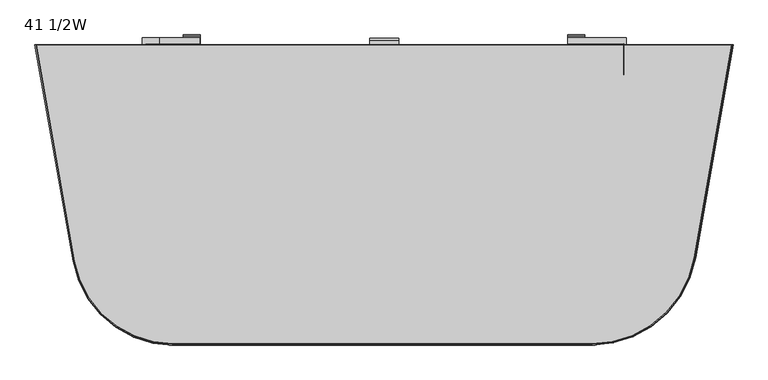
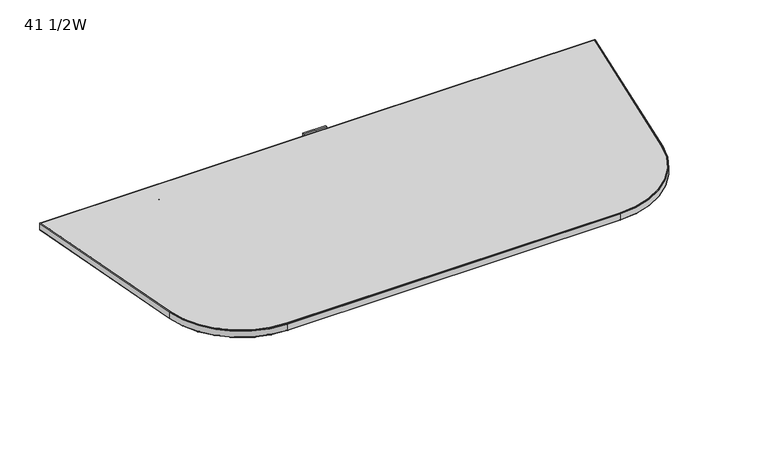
"""IFC4 building model written with IfcOpenShell, lengths in millimetres: furniture geometry, Steelcase Turnstone - Bivi - Table - Transaction : 41 1/2W."""

from ifc_helpers import new_model, si_unit, point, frame, frame_2d, origin, place, context, project, spatial, polyline, circle_curve, ellipse_curve, trimmed, segment, composite_curve, outline, extrude, faceted_brep, source, transform, mapped, element, save
from ifc_brep_helpers import plane_surface, cylinder_surface, revolved_surface, advanced_brep


def furniture_41_1_2w_a59e4a47(model_context):
    return source(origin(), model_context, "Body", "SolidModel", [
        advanced_brep(
        [(389.8172588, 10.6895259, 1036.1477243), (389.8172588, -45.8295348, 1036.1477243), (393.9775003, -45.8295348, 1036.1411284), (393.9775003, 1.4527393, 1036.1411284), (415.530065, 1.4527393, 1036.1069576), (415.530065, 10.6895259, 1036.1069576), (389.6573132, 10.6895259, 935.2651111), (415.3701194, 10.6895259, 935.2243444), (415.3701194, 1.4527393, 935.2243444), (393.8175548, 1.4527393, 935.2585152), (393.8175548, -45.8295348, 935.2585152), (389.6573132, -45.8295348, 935.2651111), (415.5289914, 1.4527393, 1035.429803), (415.5289914, 10.644336, 1035.429803), (415.4099869, 10.644336, 960.3700001), (415.4099869, 1.4527393, 960.3700001), (469.5084334, 1.4527393, 995.5019421), (477.1217025, 1.4527393, 1035.429803), (477.1217025, 10.644336, 1035.429803), (469.5084334, 10.644336, 995.5019421)],
        [
            (0, 1),
            (1, 2),
            (2, 3),
            (3, 4),
            (4, 5),
            (5, 0),
            (6, 7),
            (7, 8),
            (8, 9),
            (9, 10),
            (10, 11),
            (11, 6),
            (0, 6),
            (11, 1),
            (10, 2),
            (9, 3),
            (4, 12),
            (12, 13),
            (13, 5),
            (7, 14),
            (14, 15),
            (15, 8),
            (16, 17, circle_curve(frame((411.5082404, 1.4527393, 1027.2509269), z_axis=(0.0, -1.0, 0.0), x_axis=(1.0, 0.0, 0.0)), 66.1212555)),
            (17, 12),
            (15, 16),
            (18, 19, circle_curve(frame((411.5082404, 10.644336, 1027.2509269), z_axis=(0.0, 1.0, 0.0), x_axis=(1.0, 0.0, 0.0)), 66.1212555)),
            (19, 14),
            (13, 18),
            (16, 19),
            (18, 17),
        ],
        [
            plane_surface(frame((389.8172588, -45.8295348, 1036.1477243), z_axis=(0.001585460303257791, 0.0, 0.9999987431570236), x_axis=(0.0, -1.0, 0.0))),
            plane_surface(frame((389.6573132, -45.8295348, 935.2651111), z_axis=(-0.001585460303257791, 0.0, -0.9999987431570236), x_axis=(0.0, 1.0, 0.0))),
            plane_surface(frame((389.8172588, 10.6895259, 1036.1477243), z_axis=(-0.9999987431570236, 0.0, 0.0015854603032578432), x_axis=(-0.0015854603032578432, 0.0, -0.9999987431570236))),
            plane_surface(frame((389.8172588, -45.8295348, 1036.1477243), z_axis=(0.0, -1.0, 0.0), x_axis=(-0.0015854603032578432, 0.0, -0.9999987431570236))),
            plane_surface(frame((393.9775003, -45.8295348, 1036.1411284), z_axis=(0.9999987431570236, 0.0, -0.0015854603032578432), x_axis=(-0.0015854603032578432, 0.0, -0.9999987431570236))),
            plane_surface(frame((415.530065, 1.4527393, 1036.1069576), z_axis=(0.9999987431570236, 0.0, -0.0015854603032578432), x_axis=(-0.0015854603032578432, 0.0, -0.9999987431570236))),
            plane_surface(frame((1101.2324741, 1.4527393, 959.4779018), z_axis=(0.0, -1.0, 0.0), x_axis=(0.8386705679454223, 0.0, -0.5446390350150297))),
            plane_surface(frame((1101.2324741, 10.644336, 959.4779018), z_axis=(0.0, 1.0, 0.0), x_axis=(-0.8386705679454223, 0.0, 0.5446390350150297))),
            cylinder_surface(frame((411.5082404, 25.994935, 1027.2509269), z_axis=(0.0, -1.0, 0.0), x_axis=(1.0, 0.0, 0.0)), 66.1212555),
            plane_surface(frame((477.1217025, 1.4527393, 1035.429803), z_axis=(0.0, 0.0, 1.0), x_axis=(0.0, 1.0, 0.0))),
            plane_surface(frame((413.8208487, 1.4527393, 959.3380017), z_axis=(0.5446390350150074, 0.0, -0.8386705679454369), x_axis=(0.0, 1.0, 0.0))),
        ],
        [
            (0, [[1, 2, 3, 4, 5, 6]]),
            (1, [[7, 8, 9, 10, 11, 12]]),
            (2, [[-1, 13, -12, 14]]),
            (3, [[-2, -14, -11, 15]]),
            (4, [[-3, -15, -10, 16]]),
            (5, [[-5, 17, 18, 19]]),
            (5, [[-8, 20, 21, 22]]),
            (6, [[23, 24, -17, -4, -16, -9, -22, 25]]),
            (7, [[26, 27, -20, -7, -13, -6, -19, 28]]),
            (8, [[-23, 29, -26, 30]]),
            (9, [[-30, -28, -18, -24]]),
            (10, [[-29, -25, -21, -27]]),
        ],
    ),
        advanced_brep(
        [(1126.9435351, 10.644336, 935.2314346), (1126.9435351, -45.8295348, 935.2314346), (1122.7720593, -45.8295348, 935.2376357), (1122.7720593, 1.4527393, 935.2376357), (1101.1964872, 1.4527393, 935.2697091), (1101.1964872, 10.644336, 935.2697091), (1127.0924574, 10.644336, 1035.4106659), (1127.0924574, -45.8295348, 1035.4106659), (1122.9209815, -45.8295348, 1035.416867), (1122.9209815, 1.4527393, 1035.416867), (1101.2323741, 1.4527393, 959.4106634), (1101.2324741, 10.644336, 959.4779018), (1045.7603166, 1.4527393, 995.5019421), (1038.1470475, 1.4527393, 1035.429803), (1045.7603166, 10.644336, 995.5019421), (1038.1470475, 10.644336, 1035.429803)],
        [
            (0, 1),
            (1, 2),
            (2, 3),
            (3, 4),
            (4, 5),
            (5, 0),
            (6, 7),
            (7, 1),
            (0, 6),
            (7, 8),
            (8, 2),
            (8, 9),
            (9, 3),
            (4, 10),
            (10, 11),
            (11, 5),
            (12, 10),
            (9, 13),
            (13, 12, circle_curve(frame((1103.7605096, 1.4527393, 1027.2509269), z_axis=(0.0, -1.0, 0.0), x_axis=(-1.0, 0.0, 0.0)), 66.1212555)),
            (14, 15, circle_curve(frame((1103.7605096, 10.644336, 1027.2509269), z_axis=(0.0, 1.0, 0.0), x_axis=(-1.0, 0.0, 0.0)), 66.1212555)),
            (15, 6),
            (11, 14),
            (12, 14),
            (15, 13),
        ],
        [
            plane_surface(frame((1101.1964872, 10.644336, 935.2697091), z_axis=(-0.001486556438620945, 0.0, -0.999998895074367), x_axis=(0.999998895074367, 0.0, -0.001486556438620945))),
            plane_surface(frame((1127.0924574, -45.8295348, 1035.4106659), z_axis=(0.999998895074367, 0.0, -0.001486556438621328), x_axis=(-0.001486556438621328, 0.0, -0.999998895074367))),
            plane_surface(frame((1122.9209815, -45.8295348, 1035.416867), z_axis=(0.0, -1.0000000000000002, 0.0), x_axis=(-0.001486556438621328, 0.0, -0.999998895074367))),
            plane_surface(frame((1122.9209815, 1.4527393, 1035.416867), z_axis=(-0.999998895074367, 0.0, 0.001486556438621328), x_axis=(-0.001486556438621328, 0.0, -0.999998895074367))),
            plane_surface(frame((1101.3454094, 10.644336, 1035.4489404), z_axis=(-0.999998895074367, 0.0, 0.001486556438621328), x_axis=(-0.001486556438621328, 0.0, -0.999998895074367))),
            plane_surface(frame((1101.2324741, 1.4527393, 959.4779018), z_axis=(0.0, -1.0, 0.0), x_axis=(0.8386705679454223, 0.0, -0.5446390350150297))),
            plane_surface(frame((1101.2324741, 10.644336, 959.4779018), z_axis=(0.0, 1.0, 0.0), x_axis=(-0.8386705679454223, 0.0, 0.5446390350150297))),
            plane_surface(frame((1045.7603166, 1.4527393, 995.5019421), z_axis=(-0.5446390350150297, 0.0, -0.8386705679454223), x_axis=(0.0, 1.0, 0.0))),
            plane_surface(frame((1101.3362499, 1.4527393, 1035.429803), z_axis=(0.0, 0.0, 1.0), x_axis=(0.0, 1.0, 0.0))),
            cylinder_surface(frame((1103.7605096, 10.644336, 1027.2509269), z_axis=(0.0, -1.0, 0.0), x_axis=(-1.0, 0.0, 0.0)), 66.1212555),
        ],
        [
            (0, [[1, 2, 3, 4, 5, 6]]),
            (1, [[7, 8, -1, 9]]),
            (2, [[10, 11, -2, -8]]),
            (3, [[12, 13, -3, -11]]),
            (4, [[-5, 14, 15, 16]]),
            (5, [[17, -14, -4, -13, 18, 19]]),
            (6, [[20, 21, -9, -6, -16, 22]]),
            (7, [[-17, 23, -22, -15]]),
            (8, [[-18, -12, -10, -7, -21, 24]]),
            (9, [[-19, -24, -20, -23]]),
        ],
    ),
        extrude(outline(polyline([(-46.1114897, 1037.2887341), (-20.7722607, 1037.2887341), (-20.7722607, 1013.4961206), (-23.8029723, 1013.4961206), (-23.8029723, 1034.3825747), (-46.1114897, 1034.3825747), (-46.1114897, 1037.2887341)])), frame((250.679607, 0.0, 0.0), z_axis=(1.0, 0.0, 0.0), x_axis=(0.0, 1.0, 0.0)), (0.0, 0.0, 1.0), 1014.8983258),
        extrude(outline(composite_curve([segment(polyline([(-13.7290385, 1018.6986425), (-13.333421, 1020.9424129), (-3.7476086, 1019.2523451)]), True, "CONTINUOUS"), segment(trimmed(circle_curve(frame_2d((-4.535032, 1014.7861969)), 4.535032), [point((-3.7476086, 1019.2523451))], [point((0.0, 1014.7861969))], False, "CARTESIAN"), True, "CONTINUOUS"), segment(polyline([(0.0, 1014.7861969), (0.0, 974.9917111)]), True, "CONTINUOUS"), segment(trimmed(circle_curve(frame_2d((1.7429049, 974.9917111)), 1.7429049), [point((0.0, 974.9917111))], [point((1.7429049, 973.2488062))], True, "CARTESIAN"), True, "CONTINUOUS"), segment(polyline([(1.7429049, 973.2488062), (9.2938114, 973.2488062)]), True, "CONTINUOUS"), segment(trimmed(circle_curve(frame_2d((9.2938114, 975.058778)), 1.8099718), [point((9.2938114, 973.2488062))], [point((11.0762857, 974.7444797))], True, "CARTESIAN"), True, "CONTINUOUS"), segment(polyline([(11.0762857, 974.7444797), (12.6842064, 983.8634513), (14.8983575, 983.4730368), (13.2457853, 974.100834)]), True, "CONTINUOUS"), segment(trimmed(circle_curve(frame_2d((9.5151472, 974.7586461)), 3.7881893), [point((13.2457853, 974.100834))], [point((9.5151472, 970.9704569))], False, "CARTESIAN"), True, "CONTINUOUS"), segment(polyline([(9.5151472, 970.9704569), (1.7166405, 970.9704569)]), True, "CONTINUOUS"), segment(trimmed(circle_curve(frame_2d((1.7166405, 974.9648716)), 3.9944148), [point((1.7166405, 970.9704569))], [point((-2.2777743, 974.9648716))], False, "CARTESIAN"), True, "CONTINUOUS"), segment(polyline([(-2.2777743, 974.9648716), (-2.2777743, 1015.1797294)]), True, "CONTINUOUS"), segment(trimmed(circle_curve(frame_2d((-4.0653125, 1015.1797294)), 1.7875382), [point((-2.2777743, 1015.1797294))], [point((-3.7549399, 1016.9401162))], True, "CARTESIAN"), True, "CONTINUOUS"), segment(polyline([(-3.7549399, 1016.9401162), (-13.7290385, 1018.6986425)]), True, "CONTINUOUS")], self_intersect=False)), frame((452.417903, 0.0, 0.0), z_axis=(1.0, 0.0, 0.0), x_axis=(0.0, 1.0, 0.0)), (0.0, 0.0, 1.0), 25.4001938),
        extrude(outline(composite_curve([segment(polyline([(-13.7290385, 1018.6986425), (-13.333421, 1020.9424129), (-3.7476086, 1019.2523451)]), True, "CONTINUOUS"), segment(trimmed(circle_curve(frame_2d((-4.535032, 1014.7861969)), 4.535032), [point((-3.7476086, 1019.2523451))], [point((0.0, 1014.7861969))], False, "CARTESIAN"), True, "CONTINUOUS"), segment(polyline([(0.0, 1014.7861969), (0.0, 974.9917111)]), True, "CONTINUOUS"), segment(trimmed(circle_curve(frame_2d((1.7429049, 974.9917111)), 1.7429049), [point((0.0, 974.9917111))], [point((1.7429049, 973.2488062))], True, "CARTESIAN"), True, "CONTINUOUS"), segment(polyline([(1.7429049, 973.2488062), (9.2938114, 973.2488062)]), True, "CONTINUOUS"), segment(trimmed(circle_curve(frame_2d((9.2938114, 975.058778)), 1.8099718), [point((9.2938114, 973.2488062))], [point((11.0762857, 974.7444797))], True, "CARTESIAN"), True, "CONTINUOUS"), segment(polyline([(11.0762857, 974.7444797), (12.6842064, 983.8634513), (14.8983575, 983.4730368), (13.2457853, 974.100834)]), True, "CONTINUOUS"), segment(trimmed(circle_curve(frame_2d((9.5151472, 974.7586461)), 3.7881893), [point((13.2457853, 974.100834))], [point((9.5151472, 970.9704569))], False, "CARTESIAN"), True, "CONTINUOUS"), segment(polyline([(9.5151472, 970.9704569), (1.7166405, 970.9704569)]), True, "CONTINUOUS"), segment(trimmed(circle_curve(frame_2d((1.7166405, 974.9648716)), 3.9944148), [point((1.7166405, 970.9704569))], [point((-2.2777743, 974.9648716))], False, "CARTESIAN"), True, "CONTINUOUS"), segment(polyline([(-2.2777743, 974.9648716), (-2.2777743, 1015.1797294)]), True, "CONTINUOUS"), segment(trimmed(circle_curve(frame_2d((-4.0653125, 1015.1797294)), 1.7875382), [point((-2.2777743, 1015.1797294))], [point((-3.7549399, 1016.9401162))], True, "CARTESIAN"), True, "CONTINUOUS"), segment(polyline([(-3.7549399, 1016.9401162), (-13.7290385, 1018.6986425)]), True, "CONTINUOUS")], self_intersect=False)), frame((1037.9408843, 0.0, 0.0), z_axis=(1.0, 0.0, 0.0), x_axis=(0.0, 1.0, 0.0)), (0.0, 0.0, 1.0), 25.4001938),
        extrude(outline(composite_curve([segment(polyline([(6.9993484, 1034.4226667), (6.9993484, 1045.7367508), (9.9692293, 1045.7367508), (9.9692293, 1035.8053553)]), True, "CONTINUOUS"), segment(trimmed(circle_curve(frame_2d((5.5614564, 1035.8053553)), 4.4077729), [point((9.9692293, 1035.8053553))], [point((5.5614564, 1031.3975824))], False, "CARTESIAN"), True, "CONTINUOUS"), segment(polyline([(5.5614564, 1031.3975824), (-17.9038479, 1031.3975824), (-17.9038479, 998.3673311), (-20.8970593, 998.3673311), (-20.8970593, 1034.4226667), (6.9993484, 1034.4226667)]), True, "CONTINUOUS")], self_intersect=False)), frame((736.1261672, 0.0, 0.0), z_axis=(1.0, 0.0, 0.0), x_axis=(0.0, 1.0, 0.0)), (0.0, 0.0, 1.0), 43.9781296),
        faceted_brep([(1127.3222323, -389.579343, 998.3673311), (1127.3222323, -0.9500173, 935.2472469), (1127.3222323, -0.9500173, 1034.4376155), (1127.3222323, -389.579343, 1034.4376155), (387.9602752, -389.579343, 998.3673311), (387.9602752, -389.579343, 1034.4376155), (387.9602752, -0.9500173, 1034.4376155), (387.9602752, -0.9500173, 935.2472469), (392.4975295, -0.9500173, 935.2472469), (392.4975295, -385.6714024, 997.7326144), (1116.3066436, -385.6714024, 997.7326144), (1116.3066436, -0.9500173, 935.2472469), (1116.3066436, -0.9500173, 1034.4376155), (392.4975295, -0.9500173, 1034.4376155), (1116.3066436, -385.6714024, 1034.4376155), (392.4975295, -385.6714024, 1034.4376155)], [[[0, 1, 2, 3]], [[4, 5, 6, 7]], [[1, 0, 4, 7, 8, 9, 10, 11]], [[2, 1, 11, 12]], [[7, 6, 13, 8]], [[3, 2, 12, 14, 15, 13, 6, 5]], [[0, 3, 5, 4]], [[10, 14, 12, 11]], [[15, 9, 8, 13]], [[14, 10, 9, 15]]]),
        advanced_brep(
        [(228.1242227, 0.0, 1034.4354057), (227.1221334, -0.1769752, 1034.4354057), (226.1216165, -0.3536728, 1035.4514057), (226.1216165, -0.3536728, 1047.2937261), (227.2461297, -0.1550767, 1048.4356413), (228.1242227, 0.0, 1048.4356413), (286.3253585, -329.5530728, 1034.4354057), (436.4028869, -455.4484417, 1034.4354057), (1074.1245541, -455.4484417, 1034.4354057), (1230.4631962, -324.2627572, 1034.4354057), (1287.6344803, 0.0, 1034.4354057), (1288.6366202, -0.1766889, 1034.4354057), (1231.465336, -324.4394461, 1034.4354057), (1074.1245541, -456.4660385, 1034.4354057), (436.4028869, -456.4660385, 1034.4354057), (285.3232691, -329.730048, 1034.4354057), (284.3227523, -329.9067456, 1035.4514057), (284.3227523, -329.9067456, 1047.2937261), (285.4472655, -329.7081495, 1048.4356413), (436.4028869, -456.3401234, 1048.4356413), (1074.1245541, -456.3401234, 1048.4356413), (1231.3413335, -324.417583, 1048.4356413), (1288.5126176, -0.1548258, 1048.4356413), (1287.6344803, 0.0, 1048.4356413), (1230.4631962, -324.2627572, 1048.4356413), (1074.1245541, -455.4484417, 1048.4356413), (436.4028869, -455.4484417, 1048.4356413), (286.3253585, -329.5530728, 1048.4356413), (436.4028869, -457.4820385, 1035.4514057), (436.4028869, -457.4820385, 1047.2937261), (1074.1245541, -457.4820385, 1035.4514057), (1074.1245541, -457.4820385, 1047.2937261), (1232.4659033, -324.6158577, 1035.4514057), (1232.4659033, -324.6158577, 1047.2937261), (1289.6371875, -0.3531005, 1047.2937261), (1289.6371875, -0.3531005, 1035.4514057)],
        [
            (0, 1),
            (1, 2, circle_curve(frame((227.1221334, -0.1769752, 1035.4514057), z_axis=(-0.17391490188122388, 0.9847606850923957, 0.0), x_axis=(-0.9847606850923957, -0.17391490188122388, 0.0)), 1.016)),
            (2, 3),
            (3, 4, circle_curve(frame((227.2461297, -0.1550767, 1047.2937261), z_axis=(-0.17391490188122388, 0.9847606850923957, 0.0), x_axis=(-0.9847606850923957, -0.17391490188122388, 0.0)), 1.1419152)),
            (4, 5),
            (5, 0),
            (0, 6),
            (6, 7, circle_curve(frame((436.4028869, -303.0484417, 1034.4354057), z_axis=(0.0, 0.0, 1.0), x_axis=(-0.9847606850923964, -0.17391490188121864, 0.0)), 152.4)),
            (7, 8),
            (8, 9, circle_curve(frame((1074.1245541, -296.6984417, 1034.4354057), z_axis=(0.0, 0.0, 1.0), x_axis=(0.0, -1.0, 0.0)), 158.75)),
            (9, 10),
            (10, 11),
            (11, 12),
            (12, 13, circle_curve(frame((1074.1245541, -296.6984417, 1034.4354057), z_axis=(0.0, 0.0, -1.0), x_axis=(0.0, -1.0, 0.0)), 159.7675968)),
            (13, 14),
            (14, 15, circle_curve(frame((436.4028869, -303.0484417, 1034.4354057), z_axis=(0.0, 0.0, -1.0), x_axis=(-0.9847606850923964, -0.17391490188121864, 0.0)), 153.4175968)),
            (15, 1),
            (15, 16, circle_curve(frame((285.3232691, -329.730048, 1035.4514057), z_axis=(-0.17391490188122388, 0.9847606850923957, 0.0), x_axis=(-0.9847606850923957, -0.17391490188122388, 0.0)), 1.016)),
            (16, 2),
            (16, 17),
            (17, 3),
            (17, 18, circle_curve(frame((285.4472655, -329.7081495, 1047.2937261), z_axis=(-0.17391490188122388, 0.9847606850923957, 0.0), x_axis=(-0.9847606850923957, -0.17391490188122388, 0.0)), 1.1419152)),
            (18, 4),
            (18, 19, circle_curve(frame((436.4028869, -303.0484417, 1048.4356413), z_axis=(0.0, 0.0, 1.0), x_axis=(-0.9847606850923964, -0.17391490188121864, 0.0)), 153.2916816)),
            (19, 20),
            (20, 21, circle_curve(frame((1074.1245541, -296.6984417, 1048.4356413), z_axis=(0.0, 0.0, 1.0), x_axis=(0.0, -1.0, 0.0)), 159.6416816)),
            (21, 22),
            (22, 23),
            (23, 24),
            (24, 25, circle_curve(frame((1074.1245541, -296.6984417, 1048.4356413), z_axis=(0.0, 0.0, -1.0), x_axis=(0.0, -1.0, 0.0)), 158.75)),
            (25, 26),
            (26, 27, circle_curve(frame((436.4028869, -303.0484417, 1048.4356413), z_axis=(0.0, 0.0, -1.0), x_axis=(-0.9847606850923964, -0.17391490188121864, 0.0)), 152.4)),
            (27, 5),
            (27, 6),
            (28, 16, circle_curve(frame((436.4028869, -303.0484417, 1035.4514057), z_axis=(0.0, 0.0, -1.0), x_axis=(-0.9847606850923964, -0.17391490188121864, 0.0)), 154.4335968)),
            (14, 28, circle_curve(frame((436.4028869, -456.4660385, 1035.4514057), z_axis=(-0.9999999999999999, 0.0, 0.0), x_axis=(0.0, -0.9999999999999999, 0.0)), 1.016)),
            (29, 17, circle_curve(frame((436.4028869, -303.0484417, 1047.2937261), z_axis=(0.0, 0.0, -1.0), x_axis=(-0.9847606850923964, -0.17391490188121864, 0.0)), 154.4335968)),
            (28, 29),
            (29, 19, circle_curve(frame((436.4028869, -456.3401234, 1047.2937261), z_axis=(-0.9999999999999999, 0.0, 0.0), x_axis=(0.0, -0.9999999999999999, 0.0)), 1.1419152)),
            (26, 7),
            (13, 30, circle_curve(frame((1074.1245541, -456.4660385, 1035.4514057), z_axis=(-1.0, 0.0, 0.0), x_axis=(0.0, -1.0, 0.0)), 1.016)),
            (30, 28),
            (30, 31),
            (31, 29),
            (31, 20, circle_curve(frame((1074.1245541, -456.3401234, 1047.2937261), z_axis=(-1.0, 0.0, 0.0), x_axis=(0.0, -1.0, 0.0)), 1.1419152)),
            (25, 8),
            (32, 30, circle_curve(frame((1074.1245541, -296.6984417, 1035.4514057), z_axis=(0.0, 0.0, -1.0), x_axis=(0.0, -1.0, 0.0)), 160.7835968)),
            (12, 32, circle_curve(frame((1231.465336, -324.4394461, 1035.4514057), z_axis=(-0.17363348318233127, -0.9848103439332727, 0.0), x_axis=(0.9848103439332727, -0.17363348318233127, 0.0)), 1.016)),
            (33, 31, circle_curve(frame((1074.1245541, -296.6984417, 1047.2937261), z_axis=(0.0, 0.0, -1.0), x_axis=(0.0, -1.0, 0.0)), 160.7835968)),
            (32, 33),
            (33, 21, circle_curve(frame((1231.3413335, -324.417583, 1047.2937261), z_axis=(-0.17363348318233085, -0.9848103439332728, 0.0), x_axis=(0.9848103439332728, -0.17363348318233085, 0.0)), 1.1419152)),
            (24, 9),
            (10, 23),
            (22, 34, circle_curve(frame((1288.5126176, -0.1548258, 1047.2937261), z_axis=(0.173633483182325, 0.984810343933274, 0.0), x_axis=(0.984810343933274, -0.173633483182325, 0.0)), 1.1419152)),
            (34, 35),
            (35, 11, circle_curve(frame((1288.6366202, -0.1766889, 1035.4514057), z_axis=(0.173633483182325, 0.984810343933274, 0.0), x_axis=(0.984810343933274, -0.173633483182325, 0.0)), 1.016)),
            (35, 32),
            (34, 33),
        ],
        [
            plane_surface(frame((228.1242227, 0.0, 0.0), z_axis=(-0.17391490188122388, 0.9847606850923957, 0.0), x_axis=(0.0, 0.0, 1.0))),
            plane_surface(frame((228.1242227, 0.0, 1034.4354057), z_axis=(0.0, 0.0, -1.0000000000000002), x_axis=(0.1739149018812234, -0.9847606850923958, 0.0))),
            cylinder_surface(frame((227.1221334, -0.1769752, 1035.4514057), z_axis=(-0.17391490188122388, 0.9847606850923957, 0.0), x_axis=(-0.9847606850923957, -0.17391490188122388, 0.0)), 1.016),
            plane_surface(frame((226.1216165, -0.3536728, 1035.4514057), z_axis=(-0.9847606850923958, -0.1739149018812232, 0.0), x_axis=(0.1739149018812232, -0.9847606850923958, 0.0))),
            cylinder_surface(frame((227.2461297, -0.1550767, 1047.2937261), z_axis=(-0.17391490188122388, 0.9847606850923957, 0.0), x_axis=(-0.9847606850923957, -0.17391490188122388, 0.0)), 1.1419152),
            plane_surface(frame((227.2461297, -0.1550767, 1048.4356413), z_axis=(0.0, 0.0, 1.0000000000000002), x_axis=(0.17391490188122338, -0.9847606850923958, 0.0))),
            plane_surface(frame((228.1242227, 0.0, 1048.4356413), z_axis=(0.9847606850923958, 0.1739149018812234, 0.0), x_axis=(0.1739149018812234, -0.9847606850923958, 0.0))),
            revolved_surface(trimmed(ellipse_curve(frame((285.3232691, -329.730048, 1035.4514057), z_axis=(-0.17391490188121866, 0.9847606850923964, 0.0), x_axis=(-0.9847606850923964, -0.17391490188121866, 0.0)), 1.016, 1.016), [point((285.3232691, -329.730048, 1034.4354057))], [point((284.3227523, -329.9067456, 1035.4514057))], True, "CARTESIAN"), (436.4028869, -303.0484417, 0.0), (0.0, 0.0, 1.0)),
            cylinder_surface(frame((436.4028869, -303.0484417, 0.0), z_axis=(0.0, 0.0, 1.0), x_axis=(-0.9847606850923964, -0.17391490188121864, 0.0)), 154.4335968),
            revolved_surface(trimmed(ellipse_curve(frame((285.4472655, -329.7081495, 1047.2937261), z_axis=(-0.17391490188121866, 0.9847606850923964, 0.0), x_axis=(-0.9847606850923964, -0.17391490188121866, 0.0)), 1.1419152, 1.1419152), [point((284.3227523, -329.9067456, 1047.2937261))], [point((285.4472655, -329.7081495, 1048.4356413))], True, "CARTESIAN"), (436.4028869, -303.0484417, 0.0), (0.0, 0.0, 1.0)),
            revolved_surface(polyline([(286.3253584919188, -329.55307274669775, 1048.4356413), (286.3253584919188, -329.55307274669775, 1034.4354057)]), (436.4028869, -303.0484417, 0.0), (0.0, 0.0, 1.0)),
            cylinder_surface(frame((436.4028869, -456.4660385, 1035.4514057), z_axis=(-1.0, 0.0, 0.0), x_axis=(0.0, -1.0, 0.0)), 1.016),
            plane_surface(frame((436.4028869, -457.4820385, 1035.4514057), z_axis=(0.0, -1.0, 0.0), x_axis=(1.0, 0.0, 0.0))),
            cylinder_surface(frame((436.4028869, -456.3401234, 1047.2937261), z_axis=(-1.0, 0.0, 0.0), x_axis=(0.0, -1.0, 0.0)), 1.1419152),
            plane_surface(frame((436.4028869, -455.4484417, 1048.4356413), z_axis=(0.0, 1.0, 0.0), x_axis=(1.0, 0.0, 0.0))),
            revolved_surface(trimmed(ellipse_curve(frame((1074.1245541, -456.4660385, 1035.4514057), z_axis=(-1.0, 0.0, 0.0), x_axis=(0.0, -1.0, 0.0)), 1.016, 1.016), [point((1074.1245541, -456.4660385, 1034.4354057))], [point((1074.1245541, -457.4820385, 1035.4514057))], True, "CARTESIAN"), (1074.1245541, -296.6984417, 0.0), (0.0, 0.0, 1.0)),
            cylinder_surface(frame((1074.1245541, -296.6984417, 0.0), z_axis=(0.0, 0.0, 1.0), x_axis=(0.0, -1.0, 0.0)), 160.7835968),
            revolved_surface(trimmed(ellipse_curve(frame((1074.1245541, -456.3401234, 1047.2937261), z_axis=(-1.0, 0.0, 0.0), x_axis=(0.0, -1.0, 0.0)), 1.1419152, 1.1419152), [point((1074.1245541, -457.4820385, 1047.2937261))], [point((1074.1245541, -456.3401234, 1048.4356413))], True, "CARTESIAN"), (1074.1245541, -296.6984417, 0.0), (0.0, 0.0, 1.0)),
            revolved_surface(polyline([(1074.1245541, -455.4484417, 1048.4356413), (1074.1245541, -455.4484417, 1034.4354057)]), (1074.1245541, -296.6984417, 0.0), (0.0, 0.0, 1.0)),
            plane_surface(frame((1287.6344803, 0.0, 0.0), z_axis=(0.17363348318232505, 0.9848103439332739, 0.0), x_axis=(0.0, 0.0, 1.0))),
            cylinder_surface(frame((1231.465336, -324.4394461, 1035.4514057), z_axis=(-0.173633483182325, -0.984810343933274, 0.0), x_axis=(0.984810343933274, -0.173633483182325, 0.0)), 1.016),
            plane_surface(frame((1232.4659033, -324.6158577, 1035.4514057), z_axis=(0.984810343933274, -0.17363348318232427, 0.0), x_axis=(0.17363348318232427, 0.984810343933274, 0.0))),
            cylinder_surface(frame((1231.3413335, -324.417583, 1047.2937261), z_axis=(-0.173633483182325, -0.984810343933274, 0.0), x_axis=(0.984810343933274, -0.173633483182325, 0.0)), 1.1419152),
            plane_surface(frame((1230.4631962, -324.2627572, 1048.4356413), z_axis=(-0.9848103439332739, 0.17363348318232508, 0.0), x_axis=(0.17363348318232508, 0.9848103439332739, 0.0))),
        ],
        [
            (0, [[1, 2, 3, 4, 5, 6]]),
            (1, [[-1, 7, 8, 9, 10, 11, 12, 13, 14, 15, 16, 17]]),
            (2, [[-2, -17, 18, 19]]),
            (3, [[-3, -19, 20, 21]]),
            (4, [[-4, -21, 22, 23]]),
            (5, [[-5, -23, 24, 25, 26, 27, 28, 29, 30, 31, 32, 33]]),
            (6, [[-6, -33, 34, -7]]),
            (7, [[35, -18, -16, 36]]),
            (8, [[37, -20, -35, 38]]),
            (9, [[-24, -22, -37, 39]]),
            (10, [[-8, -34, -32, 40]]),
            (11, [[-36, -15, 41, 42]]),
            (12, [[-38, -42, 43, 44]]),
            (13, [[-39, -44, 45, -25]]),
            (14, [[-40, -31, 46, -9]]),
            (15, [[47, -41, -14, 48]]),
            (16, [[49, -43, -47, 50]]),
            (17, [[-26, -45, -49, 51]]),
            (18, [[-10, -46, -30, 52]]),
            (19, [[53, -28, 54, 55, 56, -12]]),
            (20, [[-48, -13, -56, 57]]),
            (21, [[-50, -57, -55, 58]]),
            (22, [[-51, -58, -54, -27]]),
            (23, [[-52, -29, -53, -11]]),
        ],
    ),
        advanced_brep(
        [(1287.6877761, 0.0, 1048.4356413), (228.1149824, 0.0, 1048.4356413), (227.2211288, -0.1529764, 1048.4356413), (285.4233805, -329.7123677, 1048.4356413), (436.4028869, -456.364378, 1048.4356413), (1074.1245541, -456.364378, 1048.4356413), (1231.3652196, -324.4217944, 1048.4356413), (1288.5376178, -0.1527186, 1048.4356413), (228.2920017, -0.9500173, 1048.4356413), (1287.4669813, -0.9500173, 1048.4356413), (1230.4631962, -324.2627572, 1048.4356413), (1074.1245541, -455.4484417, 1048.4356413), (436.4028869, -455.4484417, 1048.4356413), (286.3253585, -329.5530728, 1048.4356413), (1287.6714319, 0.0, 1034.4354057), (228.1149824, 0.0, 1034.3825747), (1288.5376178, -0.1527186, 1034.3825747), (1231.3652196, -324.4217944, 1034.3825747), (1074.1245541, -456.364378, 1034.3825747), (436.4028869, -456.364378, 1034.3825747), (285.4233805, -329.7123677, 1034.3825747), (227.2211288, -0.1529764, 1034.3825747), (1287.4669813, -0.9500173, 1034.3825747), (228.2920017, -0.9500173, 1034.3825747), (286.3253585, -329.5530728, 1034.3825747), (436.4028869, -455.4484417, 1034.3825747), (1074.1245541, -455.4484417, 1034.3825747), (1230.4631962, -324.2627572, 1034.3825747), (226.1205006, -0.3473542, 1035.429803), (226.1205006, -0.3473542, 1047.441244), (284.3227523, -329.9067456, 1035.429803), (284.3227523, -329.9067456, 1047.441244), (436.4028869, -457.4820385, 1035.429803), (436.4028869, -457.4820385, 1047.441244), (1074.1245541, -457.4820385, 1035.429803), (1074.1245541, -457.4820385, 1047.441244), (1232.4659033, -324.6158577, 1035.429803), (1232.4659033, -324.6158577, 1047.441244), (1289.6383015, -0.3467819, 1047.441244), (1289.6383015, -0.3467819, 1035.429803)],
        [
            (0, 1),
            (1, 2),
            (2, 3),
            (3, 4, circle_curve(frame((436.4028869, -303.0484417, 1048.4356413), z_axis=(0.0, 0.0, 1.0), x_axis=(-0.9847606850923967, -0.17391490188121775, 0.0)), 153.3159362)),
            (4, 5),
            (5, 6, circle_curve(frame((1074.1245541, -296.6984417, 1048.4356413), z_axis=(0.0, 0.0, 1.0), x_axis=(0.0, -1.0, 0.0)), 159.6659362)),
            (6, 7),
            (7, 0),
            (8, 9),
            (9, 10),
            (10, 11, circle_curve(frame((1074.1245541, -296.6984417, 1048.4356413), z_axis=(0.0, 0.0, -1.0), x_axis=(0.0, -1.0, 0.0)), 158.75)),
            (11, 12),
            (12, 13, circle_curve(frame((436.4028869, -303.0484417, 1048.4356413), z_axis=(0.0, 0.0, -1.0), x_axis=(-0.9847606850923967, -0.17391490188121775, 0.0)), 152.4)),
            (13, 8),
            (0, 14),
            (14, 15),
            (15, 1),
            (14, 16),
            (16, 17),
            (17, 18, circle_curve(frame((1074.1245541, -296.6984417, 1034.3825747), z_axis=(0.0, 0.0, -1.0), x_axis=(0.0, -1.0, 0.0)), 159.6659362)),
            (18, 19),
            (19, 20, circle_curve(frame((436.4028869, -303.0484417, 1034.3825747), z_axis=(0.0, 0.0, -1.0), x_axis=(-0.9847606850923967, -0.17391490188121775, 0.0)), 153.3159362)),
            (20, 21),
            (21, 15),
            (22, 23),
            (23, 24),
            (24, 25, circle_curve(frame((436.4028869, -303.0484417, 1034.3825747), z_axis=(0.0, 0.0, 1.0), x_axis=(-0.9847606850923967, -0.17391490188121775, 0.0)), 152.4)),
            (25, 26),
            (26, 27, circle_curve(frame((1074.1245541, -296.6984417, 1034.3825747), z_axis=(0.0, 0.0, 1.0), x_axis=(0.0, -1.0, 0.0)), 158.75)),
            (27, 22),
            (8, 23),
            (22, 9),
            (21, 28, circle_curve(frame((227.2211288, -0.1529764, 1035.560706), z_axis=(-0.17391490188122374, 0.9847606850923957, 0.0), x_axis=(-0.9847606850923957, -0.17391490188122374, 0.0)), 1.1253003)),
            (28, 29),
            (29, 2, circle_curve(frame((227.2211288, -0.1529764, 1047.310341), z_axis=(-0.17391490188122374, 0.9847606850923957, 0.0), x_axis=(-0.9847606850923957, -0.17391490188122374, 0.0)), 1.1253003)),
            (20, 30, circle_curve(frame((285.4233805, -329.7123677, 1035.560706), z_axis=(-0.17391490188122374, 0.9847606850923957, 0.0), x_axis=(-0.9847606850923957, -0.17391490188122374, 0.0)), 1.1253003)),
            (30, 28),
            (30, 31),
            (31, 29),
            (31, 3, circle_curve(frame((285.4233805, -329.7123677, 1047.310341), z_axis=(-0.17391490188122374, 0.9847606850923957, 0.0), x_axis=(-0.9847606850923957, -0.17391490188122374, 0.0)), 1.1253003)),
            (13, 24),
            (19, 32, circle_curve(frame((436.4028869, -456.364378, 1035.560706), z_axis=(-1.0, 0.0, 0.0), x_axis=(0.0, -1.0, 0.0)), 1.1253003)),
            (32, 30, circle_curve(frame((436.4028869, -303.0484417, 1035.429803), z_axis=(0.0, 0.0, -1.0), x_axis=(-0.9847606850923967, -0.17391490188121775, 0.0)), 154.4335968)),
            (32, 33),
            (33, 31, circle_curve(frame((436.4028869, -303.0484417, 1047.441244), z_axis=(0.0, 0.0, -1.0), x_axis=(-0.9847606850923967, -0.17391490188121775, 0.0)), 154.4335968)),
            (33, 4, circle_curve(frame((436.4028869, -456.364378, 1047.310341), z_axis=(-1.0, 0.0, 0.0), x_axis=(0.0, -1.0, 0.0)), 1.1253003)),
            (12, 25),
            (18, 34, circle_curve(frame((1074.1245541, -456.364378, 1035.560706), z_axis=(-1.0, 0.0, 0.0), x_axis=(0.0, -1.0, 0.0)), 1.1253003)),
            (34, 32),
            (34, 35),
            (35, 33),
            (35, 5, circle_curve(frame((1074.1245541, -456.364378, 1047.310341), z_axis=(-1.0, 0.0, 0.0), x_axis=(0.0, -1.0, 0.0)), 1.1253003)),
            (11, 26),
            (17, 36, circle_curve(frame((1231.3652196, -324.4217944, 1035.560706), z_axis=(-0.173633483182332, -0.9848103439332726, 0.0), x_axis=(0.9848103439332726, -0.173633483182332, 0.0)), 1.1253003)),
            (36, 34, circle_curve(frame((1074.1245541, -296.6984417, 1035.429803), z_axis=(0.0, 0.0, -1.0), x_axis=(0.0, -1.0, 0.0)), 160.7835968)),
            (36, 37),
            (37, 35, circle_curve(frame((1074.1245541, -296.6984417, 1047.441244), z_axis=(0.0, 0.0, -1.0), x_axis=(0.0, -1.0, 0.0)), 160.7835968)),
            (37, 6, circle_curve(frame((1231.3652196, -324.4217944, 1047.310341), z_axis=(-0.17363348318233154, -0.9848103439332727, 0.0), x_axis=(0.9848103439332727, -0.17363348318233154, 0.0)), 1.1253003)),
            (10, 27),
            (7, 38, circle_curve(frame((1288.5376178, -0.1527186, 1047.310341), z_axis=(0.17363348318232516, 0.9848103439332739, 0.0), x_axis=(0.9848103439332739, -0.17363348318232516, 0.0)), 1.1253003)),
            (38, 39),
            (39, 16, circle_curve(frame((1288.5376178, -0.1527186, 1035.560706), z_axis=(0.17363348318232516, 0.9848103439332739, 0.0), x_axis=(0.9848103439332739, -0.17363348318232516, 0.0)), 1.1253003)),
            (39, 36),
            (38, 37),
        ],
        [
            plane_surface(frame((228.1149824, -0.9500173, 1048.4356413), z_axis=(0.0, 0.0, 1.0), x_axis=(1.0, 0.0, 0.0))),
            plane_surface(frame((228.1149824, 0.0, 1048.4356413), z_axis=(0.0, 1.0, 0.0), x_axis=(1.0, 0.0, 0.0))),
            plane_surface(frame((228.1149824, 0.0, 1034.3825747), z_axis=(0.0, 0.0, -1.0), x_axis=(1.0, 0.0, 0.0))),
            plane_surface(frame((228.1149824, -0.9500173, 1034.3825747), z_axis=(0.0, -1.0, 0.0), x_axis=(1.0, 0.0, 0.0))),
            plane_surface(frame((228.1231068, 0.0063186, 0.0), z_axis=(-0.17391490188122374, 0.9847606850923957, 0.0), x_axis=(0.0, 0.0, 1.0))),
            cylinder_surface(frame((227.2211288, -0.1529764, 1035.560706), z_axis=(-0.17391490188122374, 0.9847606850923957, 0.0), x_axis=(-0.9847606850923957, -0.17391490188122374, 0.0)), 1.1253003),
            plane_surface(frame((226.1205006, -0.3473542, 1035.429803), z_axis=(-0.9847606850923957, -0.17391490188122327, 0.0), x_axis=(0.17391490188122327, -0.9847606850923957, 0.0))),
            cylinder_surface(frame((227.2211288, -0.1529764, 1047.310341), z_axis=(-0.17391490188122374, 0.9847606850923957, 0.0), x_axis=(-0.9847606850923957, -0.17391490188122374, 0.0)), 1.1253003),
            plane_surface(frame((228.1231068, 0.0063186, 1048.4356413), z_axis=(0.9847606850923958, 0.17391490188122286, 0.0), x_axis=(0.17391490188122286, -0.9847606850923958, 0.0))),
            revolved_surface(trimmed(ellipse_curve(frame((285.4233805, -329.7123677, 1035.560706), z_axis=(-0.17391490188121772, 0.9847606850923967, 0.0), x_axis=(-0.9847606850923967, -0.17391490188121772, 0.0)), 1.1253003, 1.1253003), [point((285.4233805, -329.7123677, 1034.4354057))], [point((284.3227523, -329.9067456, 1035.429803))], True, "CARTESIAN"), (436.4028869, -303.0484417, 0.0), (0.0, 0.0, 1.0)),
            cylinder_surface(frame((436.4028869, -303.0484417, 0.0), z_axis=(0.0, 0.0, 1.0), x_axis=(-0.9847606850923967, -0.17391490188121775, 0.0)), 154.4335968),
            revolved_surface(trimmed(ellipse_curve(frame((285.4233805, -329.7123677, 1047.310341), z_axis=(-0.17391490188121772, 0.9847606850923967, 0.0), x_axis=(-0.9847606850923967, -0.17391490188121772, 0.0)), 1.1253003, 1.1253003), [point((284.3227523, -329.9067456, 1047.441244))], [point((285.4233805, -329.7123677, 1048.4356413))], True, "CARTESIAN"), (436.4028869, -303.0484417, 0.0), (0.0, 0.0, 1.0)),
            revolved_surface(polyline([(286.32535849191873, -329.5530727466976, 1048.4356413), (286.32535849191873, -329.5530727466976, 1034.3825747)]), (436.4028869, -303.0484417, 0.0), (0.0, 0.0, 1.0)),
            cylinder_surface(frame((436.4028869, -456.364378, 1035.560706), z_axis=(-1.0, 0.0, 0.0), x_axis=(0.0, -1.0, 0.0)), 1.1253003),
            plane_surface(frame((436.4028869, -457.4820385, 1035.429803), z_axis=(0.0, -1.0, 0.0), x_axis=(1.0, 0.0, 0.0))),
            cylinder_surface(frame((436.4028869, -456.364378, 1047.310341), z_axis=(-1.0, 0.0, 0.0), x_axis=(0.0, -1.0, 0.0)), 1.1253003),
            plane_surface(frame((436.4028869, -455.4484417, 1048.4356413), z_axis=(0.0, 1.0, 0.0), x_axis=(1.0, 0.0, 0.0))),
            revolved_surface(trimmed(ellipse_curve(frame((1074.1245541, -456.364378, 1035.560706), z_axis=(-1.0, 0.0, 0.0), x_axis=(0.0, -1.0, 0.0)), 1.1253003, 1.1253003), [point((1074.1245541, -456.364378, 1034.4354057))], [point((1074.1245541, -457.4820385, 1035.429803))], True, "CARTESIAN"), (1074.1245541, -296.6984417, 0.0), (0.0, 0.0, 1.0)),
            cylinder_surface(frame((1074.1245541, -296.6984417, 0.0), z_axis=(0.0, 0.0, 1.0), x_axis=(0.0, -1.0, 0.0)), 160.7835968),
            revolved_surface(trimmed(ellipse_curve(frame((1074.1245541, -456.364378, 1047.310341), z_axis=(-1.0, 0.0, 0.0), x_axis=(0.0, -1.0, 0.0)), 1.1253003, 1.1253003), [point((1074.1245541, -457.4820385, 1047.441244))], [point((1074.1245541, -456.364378, 1048.4356413))], True, "CARTESIAN"), (1074.1245541, -296.6984417, 0.0), (0.0, 0.0, 1.0)),
            revolved_surface(polyline([(1074.1245541, -455.4484417, 1048.4356413), (1074.1245541, -455.4484417, 1034.3825747)]), (1074.1245541, -296.6984417, 0.0), (0.0, 0.0, 1.0)),
            plane_surface(frame((1287.6355944, 0.0063186, 0.0), z_axis=(0.17363348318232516, 0.9848103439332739, 0.0), x_axis=(0.0, 0.0, 1.0))),
            cylinder_surface(frame((1231.3652196, -324.4217944, 1035.560706), z_axis=(-0.17363348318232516, -0.9848103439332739, 0.0), x_axis=(0.9848103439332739, -0.17363348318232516, 0.0)), 1.1253003),
            plane_surface(frame((1232.4659033, -324.6158577, 1035.429803), z_axis=(0.9848103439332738, -0.173633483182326, 0.0), x_axis=(0.173633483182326, 0.9848103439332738, 0.0))),
            cylinder_surface(frame((1231.3652196, -324.4217944, 1047.310341), z_axis=(-0.17363348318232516, -0.9848103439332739, 0.0), x_axis=(0.9848103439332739, -0.17363348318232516, 0.0)), 1.1253003),
            plane_surface(frame((1230.4631962, -324.2627572, 1048.4356413), z_axis=(-0.9848103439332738, 0.173633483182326, 0.0), x_axis=(0.173633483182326, 0.9848103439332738, 0.0))),
        ],
        [
            (0, [[1, 2, 3, 4, 5, 6, 7, 8], [9, 10, 11, 12, 13, 14]]),
            (1, [[-1, 15, 16, 17]]),
            (2, [[-16, 18, 19, 20, 21, 22, 23, 24], [25, 26, 27, 28, 29, 30]]),
            (3, [[-9, 31, -25, 32]]),
            (4, [[-24, 33, 34, 35, -2, -17]]),
            (5, [[-33, -23, 36, 37]]),
            (6, [[-34, -37, 38, 39]]),
            (7, [[-35, -39, 40, -3]]),
            (8, [[41, -26, -31, -14]]),
            (9, [[-22, 42, 43, -36]]),
            (10, [[-38, -43, 44, 45]]),
            (11, [[-40, -45, 46, -4]]),
            (12, [[-27, -41, -13, 47]]),
            (13, [[-21, 48, 49, -42]]),
            (14, [[-44, -49, 50, 51]]),
            (15, [[-5, -46, -51, 52]]),
            (16, [[-28, -47, -12, 53]]),
            (17, [[-20, 54, 55, -48]]),
            (18, [[-50, -55, 56, 57]]),
            (19, [[-6, -52, -57, 58]]),
            (20, [[-29, -53, -11, 59]]),
            (21, [[-18, -15, -8, 60, 61, 62]]),
            (22, [[-19, -62, 63, -54]]),
            (23, [[-56, -63, -61, 64]]),
            (24, [[-7, -58, -64, -60]]),
            (25, [[-59, -10, -32, -30]]),
        ],
    ),
        extrude(outline(composite_curve([segment(polyline([(286.3253585, -329.5530728), (228.2920017, -0.9500173), (1287.4669813, -0.9500173), (1230.4631962, -324.2627572)]), True, "CONTINUOUS"), segment(trimmed(circle_curve(frame_2d((1074.1245541, -296.6984417)), 158.75), [point((1230.4631962, -324.2627572))], [point((1074.1245541, -455.4484417))], False, "CARTESIAN"), True, "CONTINUOUS"), segment(polyline([(1074.1245541, -455.4484417), (436.4028869, -455.4484417)]), True, "CONTINUOUS"), segment(trimmed(circle_curve(frame_2d((436.4028869, -303.0484417)), 152.4), [point((436.4028869, -455.4484417))], [point((286.3253585, -329.5530728))], False, "CARTESIAN"), True, "CONTINUOUS")], self_intersect=False)), frame((0.0, 0.0, 1034.4354057), z_axis=(0.0, 0.0, 1.0), x_axis=(1.0, 0.0, 0.0)), (0.0, 0.0, 1.0), 14.0002356),
    ])


if __name__ == "__main__":
    model = new_model("IFC4")
    model_context = context("Model", 3, world=origin())
    ifc_project = project(units=[si_unit("LENGTHUNIT", "METRE", prefix="MILLI")], contexts=[model_context])
    site = spatial("IfcSite", under=ifc_project)
    building = spatial("IfcBuilding", under=site)
    placement = place(None, origin())
    furniture_41_1_2w_shape = furniture_41_1_2w_a59e4a47(model_context)
    element("IfcFurniture", 1, ObjectType="Steelcase Turnstone - Bivi - Table - Transaction : 41 1/2W", at=placement, inside=building, context=model_context, shape_type="MappedRepresentation", body=[
        mapped(furniture_41_1_2w_shape, transform((0.0, 0.0, 0.0), x_axis=(1.0, 0.0, 0.0), y_axis=(0.0, 1.0, 0.0), z_axis=(0.0, 0.0, 1.0))),
    ])
    save(model, "model.ifc")
